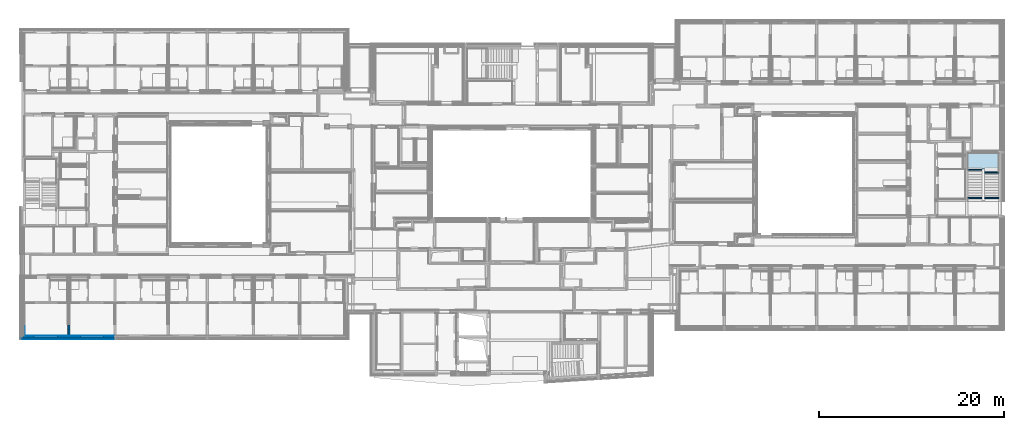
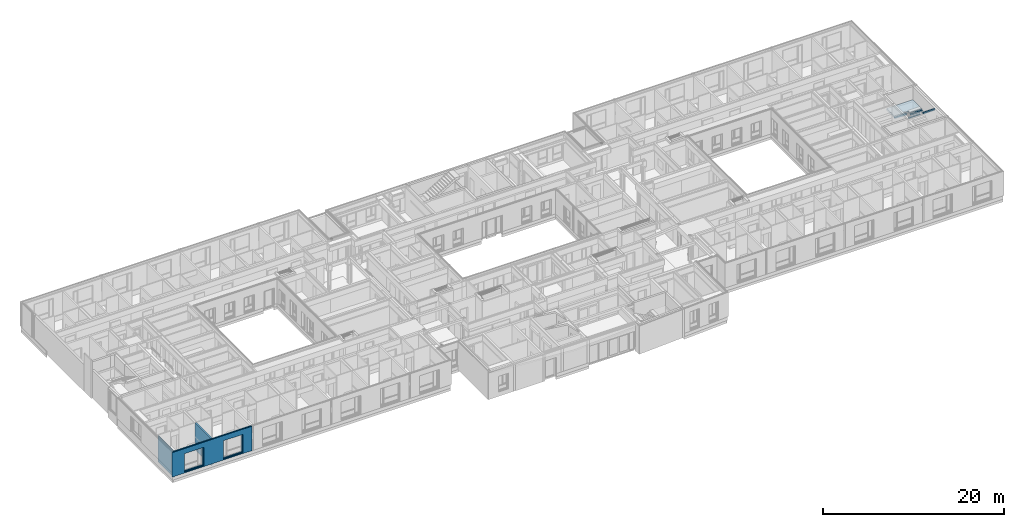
# One storey, part 8 of 207: 9 walls, 5 slabs, 14 openings.
"""IFC4 building model written with IfcOpenShell, lengths in metres."""

from ifc_helpers import new_model, entity, si_unit, converted_unit, derived_unit, frame, frame_2d, origin, origin_with_axes, place, context, subcontext, project, spatial, polyline, rectangle, outline, extrude, material, element, save


model = new_model("IFC4")

# Units and contexts
model_context = context("Model", 3, precision=1e-05, world=origin())
body_context = subcontext(model_context, "Body", "Model", "MODEL_VIEW")
ifc_project = project(units=[si_unit("LENGTHUNIT", "METRE"), si_unit("AREAUNIT", "SQUARE_METRE"), si_unit("VOLUMEUNIT", "CUBIC_METRE"), si_unit("MASSUNIT", "GRAM", prefix="KILO"), converted_unit("PLANEANGLEUNIT", "DEGREE", entity("IfcPlaneAngleMeasure", 0.0174532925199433), si_unit("PLANEANGLEUNIT", "RADIAN"), dimensions=[0, 0, 0, 0, 0, 0, 0]), derived_unit("THERMALTRANSMITTANCEUNIT", [(si_unit("POWERUNIT", "WATT"), 1), (si_unit("THERMODYNAMICTEMPERATUREUNIT", "KELVIN"), -1), (si_unit("LENGTHUNIT", "METRE"), -2)]), derived_unit("VOLUMETRICFLOWRATEUNIT", [(si_unit("LENGTHUNIT", "METRE"), 3), (converted_unit("TIMEUNIT", "hour", entity("IfcTimeMeasure", 3600.0), si_unit("TIMEUNIT", "SECOND"), dimensions=[0, 0, 1, 0, 0, 0, 0]), -1), (si_unit("LENGTHUNIT", "METRE"), -1)])], contexts=[model_context])

# Site, building, storey
site_placement = place(None, origin())
site = spatial("IfcSite", under=ifc_project, at=site_placement, Name="Psychiatrie Neubau Wunstorf", CompositionType="ELEMENT")
building_placement = place(site_placement, origin())
building = spatial("IfcBuilding", under=site, at=building_placement, Name="Neubau H2 Stationsgebäude", CompositionType="ELEMENT")
storey_placement = place(building_placement, frame((0.0, 0.0, -0.2)))
storey = spatial("IfcBuildingStorey", under=building, at=storey_placement, Name="H2 Ebene 0", CompositionType="ELEMENT", Elevation=-0.2)

# Slabs
ifc_material_1 = material(Name="STB")
slab_1_placement = place(storey_placement, frame((102.37, 12.6667214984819, 3.6)))
element("IfcSlab", 1, at=slab_1_placement, inside=storey, material=ifc_material_1, PredefinedType="FLOOR", context=body_context, shape_type="SweptSolid", body=[
    extrude(rectangle(XDim=0.15, YDim=1.5, at=frame_2d((0.75, -0.075), x_axis=(0.0, -1.0))), frame((0.0, 0.15, 0.0), z_axis=(0.0, 0.0, 1.0), x_axis=(1.0, 0.0, 0.0)), (0.0, 0.0, 1.0), 0.16),
])
ifc_material_2 = material(Name="Stb")
slab_2_placement = place(storey_placement, frame((102.369990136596, 15.7239938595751, 1.7655)))
element("IfcSlab", 2, at=slab_2_placement, inside=storey, material=ifc_material_2, PredefinedType="FLOOR", context=body_context, shape_type="SweptSolid", body=[
    extrude(outline(polyline([(0.0, 0.0), (1.50000986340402, 0.0), (1.50001972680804, 0.151000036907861), (9.86340401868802e-06, 0.151000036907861), (0.0, 0.0)])), origin_with_axes(), (0.0, 0.0, 1.0), 0.14),
])
ifc_material_3 = material(Name="STB")
slab_3_placement = place(storey_placement, frame((104.22, 12.666606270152, 3.6)))
element("IfcSlab", 3, at=slab_3_placement, inside=storey, material=ifc_material_3, PredefinedType="FLOOR", context=body_context, shape_type="SweptSolid", body=[
    extrude(outline(polyline([(0.0, 0.15), (0.0, 0.0), (1.49999999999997, 0.000115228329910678), (1.49999999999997, 0.150115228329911), (0.0, 0.15)])), origin_with_axes(), (0.0, 0.0, 1.0), 0.16),
])
ifc_material_4 = material(Name="Stb")
slab_4_placement = place(storey_placement, frame((104.219950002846, 15.4156547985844, 1.7655)))
element("IfcSlab", 4, at=slab_4_placement, inside=storey, material=ifc_material_4, PredefinedType="FLOOR", context=body_context, shape_type="SweptSolid", body=[
    extrude(outline(polyline([(4.99971541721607e-05, 0.0), (1.50004013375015, 0.0010000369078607), (1.50004999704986, 0.151075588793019), (0.0, 0.151059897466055), (4.99971541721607e-05, 0.0)])), origin_with_axes(), (0.0, 0.0, 1.0), 0.14),
])
ifc_material_5 = material(Name="Stb")
slab_5_placement = place(storey_placement, frame((102.37, 15.5667146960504, 1.7655)))
element("IfcSlab", 5, at=slab_5_placement, inside=storey, material=ifc_material_5, PredefinedType="FLOOR", context=body_context, shape_type="SweptSolid", body=[
    extrude(outline(polyline([(3.34999999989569, 1.56913269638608e-05), (3.35, 2.00828529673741), (0.167776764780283, 2.00828530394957), (0.0, 2.00828530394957), (0.0, 0.308279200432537), (1.50000986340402, 0.308279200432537), (1.85, 0.308285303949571), (1.84995000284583, 0.0), (3.34999999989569, 1.56913269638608e-05)])), origin_with_axes(), (0.0, 0.0, 1.0), 0.25),
])

# Wall, openings
ifc_material_6 = material(Name="WA-LB")
wall_1_placement = place(storey_placement, frame((9.9, -2.16399999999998, 0.5), z_axis=(0.0, 0.0, 1.0), x_axis=(-1.0, 1.40209871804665e-16, 0.0)))
wall_1 = element("IfcWall", 6, at=wall_1_placement, inside=storey, material=ifc_material_6, context=body_context, shape_type="SweptSolid", body=[
    extrude(outline(polyline([(-9.77137313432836, -0.0360000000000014), (-0.0413731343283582, -0.0360000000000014), (0.0, 0.0), (-9.77137313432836, 0.0), (-9.77137313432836, -0.0360000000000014)])), frame((9.77137313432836, 0.0360000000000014, 0.0), z_axis=(0.0, 0.0, 1.0), x_axis=(1.0, 0.0, 0.0)), (0.0, 0.0, 1.0), 3.1),
])
opening_1_placement = place(wall_1_placement, frame((6.15, 0.0, 0.1), z_axis=(0.0, 1.0, 0.0), x_axis=(0.0, 0.0, 1.0)))
element("IfcOpeningElement", 7, at=opening_1_placement, cuts=wall_1, Name="Fensteröffnung", ObjectType="Opening", context=body_context, shape_type="SweptSolid", body=[
    extrude(outline(polyline([(2.5, 2.5), (2.5, 0.0), (0.0, 0.0), (0.0, 2.5), (2.5, 2.5)])), origin_with_axes(), (0.0, 0.0, 1.0), 0.036),
])
opening_2_placement = place(wall_1_placement, frame((1.15, 0.0, 0.1), z_axis=(0.0, 1.0, 0.0), x_axis=(0.0, 0.0, 1.0)))
element("IfcOpeningElement", 8, at=opening_2_placement, cuts=wall_1, Name="Fensteröffnung", ObjectType="Opening", context=body_context, shape_type="SweptSolid", body=[
    extrude(outline(polyline([(2.5, 2.5), (2.5, 0.0), (0.0, 0.0), (0.0, 2.5), (2.5, 2.5)])), origin_with_axes(), (0.0, 0.0, 1.0), 0.036),
])

ifc_material_7 = material(Name="WA-HD")
wall_2_placement = place(storey_placement, frame((9.9, -2.19999999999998, 0.5), z_axis=(0.0, 0.0, 1.0), x_axis=(-1.0, 1.3961620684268e-16, 0.0)))
wall_2 = element("IfcWall", 9, at=wall_2_placement, inside=storey, material=ifc_material_7, context=body_context, shape_type="SweptSolid", body=[
    extrude(outline(polyline([(-9.95525373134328, -0.160000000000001), (-0.183880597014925, -0.160000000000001), (0.0, 0.0), (-9.95525373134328, 0.0), (-9.95525373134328, -0.160000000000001)])), frame((9.95525373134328, 0.160000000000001, 0.0), z_axis=(0.0, 0.0, 1.0), x_axis=(1.0, 0.0, 0.0)), (0.0, 0.0, 1.0), 3.1),
])
opening_3_placement = place(wall_2_placement, frame((6.15, 0.0, 0.1), z_axis=(0.0, 1.0, 0.0), x_axis=(0.0, 0.0, 1.0)))
element("IfcOpeningElement", 10, at=opening_3_placement, cuts=wall_2, Name="Fensteröffnung", ObjectType="Opening", context=body_context, shape_type="SweptSolid", body=[
    extrude(outline(polyline([(2.5, 2.5), (2.5, 0.0), (0.0, 0.0), (0.0, 2.5), (2.5, 2.5)])), origin_with_axes(), (0.0, 0.0, 1.0), 0.16),
])
opening_4_placement = place(wall_2_placement, frame((1.15, 0.0, 0.1), z_axis=(0.0, 1.0, 0.0), x_axis=(0.0, 0.0, 1.0)))
element("IfcOpeningElement", 11, at=opening_4_placement, cuts=wall_2, Name="Fensteröffnung", ObjectType="Opening", context=body_context, shape_type="SweptSolid", body=[
    extrude(outline(polyline([(2.5, 2.5), (2.5, 0.0), (0.0, 0.0), (0.0, 2.5), (2.5, 2.5)])), origin_with_axes(), (0.0, 0.0, 1.0), 0.16),
])

ifc_material_8 = material(Name="WA-DL")
wall_3_placement = place(storey_placement, frame((9.9, -2.35999999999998, 0.5), z_axis=(0.0, 0.0, 1.0), x_axis=(-1.0, 1.37037396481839e-16, 0.0)))
wall_3 = element("IfcWall", 12, at=wall_3_placement, inside=storey, material=ifc_material_8, context=body_context, shape_type="SweptSolid", body=[
    extrude(outline(polyline([(-10.0471940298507, -0.0800000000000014), (-0.0919402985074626, -0.0800000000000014), (0.0, 0.0), (-10.0471940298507, 0.0), (-10.0471940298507, -0.0800000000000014)])), frame((10.0471940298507, 0.0800000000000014, 0.0), z_axis=(0.0, 0.0, 1.0), x_axis=(1.0, 0.0, 0.0)), (0.0, 0.0, 1.0), 3.3),
])
opening_5_placement = place(wall_3_placement, frame((6.15, 0.0, 0.1), z_axis=(0.0, 1.0, 0.0), x_axis=(0.0, 0.0, 1.0)))
element("IfcOpeningElement", 13, at=opening_5_placement, cuts=wall_3, Name="Fensteröffnung", ObjectType="Opening", context=body_context, shape_type="SweptSolid", body=[
    extrude(outline(polyline([(2.5, 2.5), (2.5, 0.0), (0.0, 0.0), (0.0, 2.5), (2.5, 2.5)])), origin_with_axes(), (0.0, 0.0, 1.0), 0.08),
])
opening_6_placement = place(wall_3_placement, frame((1.15, 0.0, 0.1), z_axis=(0.0, 1.0, 0.0), x_axis=(0.0, 0.0, 1.0)))
element("IfcOpeningElement", 14, at=opening_6_placement, cuts=wall_3, Name="Fensteröffnung", ObjectType="Opening", context=body_context, shape_type="SweptSolid", body=[
    extrude(outline(polyline([(2.5, 2.5), (2.5, 0.0), (0.0, 0.0), (0.0, 2.5), (2.5, 2.5)])), origin_with_axes(), (0.0, 0.0, 1.0), 0.08),
])

ifc_material_9 = material(Name="WA-TP")
wall_4_placement = place(storey_placement, frame((9.9, -2.43999999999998, 0.5), z_axis=(0.0, 0.0, 1.0), x_axis=(-1.0, 1.35783388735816e-16, 0.0)))
wall_4 = element("IfcWall", 15, at=wall_4_placement, inside=storey, material=ifc_material_9, context=body_context, shape_type="SweptSolid", body=[
    extrude(outline(polyline([(-10.0885671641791, -0.0360000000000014), (-0.0413731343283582, -0.0360000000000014), (0.0, 0.0), (-10.0885671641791, 0.0), (-10.0885671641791, -0.0360000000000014)])), frame((10.0885671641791, 0.0360000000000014, 0.0), z_axis=(0.0, 0.0, 1.0), x_axis=(1.0, 0.0, 0.0)), (0.0, 0.0, 1.0), 3.3),
])
opening_7_placement = place(wall_4_placement, frame((6.15, 0.0, 0.1), z_axis=(0.0, 1.0, 0.0), x_axis=(0.0, 0.0, 1.0)))
element("IfcOpeningElement", 16, at=opening_7_placement, cuts=wall_4, Name="Fensteröffnung", ObjectType="Opening", context=body_context, shape_type="SweptSolid", body=[
    extrude(outline(polyline([(2.5, 2.5), (2.5, 0.0), (0.0, 0.0), (0.0, 2.5), (2.5, 2.5)])), origin_with_axes(), (0.0, 0.0, 1.0), 0.036),
])
opening_8_placement = place(wall_4_placement, frame((1.15, 0.0, 0.1), z_axis=(0.0, 1.0, 0.0), x_axis=(0.0, 0.0, 1.0)))
element("IfcOpeningElement", 17, at=opening_8_placement, cuts=wall_4, Name="Fensteröffnung", ObjectType="Opening", context=body_context, shape_type="SweptSolid", body=[
    extrude(outline(polyline([(2.5, 2.5), (2.5, 0.0), (0.0, 0.0), (0.0, 2.5), (2.5, 2.5)])), origin_with_axes(), (0.0, 0.0, 1.0), 0.036),
])

ifc_material_10 = material(Name="WA-KL")
wall_5_placement = place(storey_placement, frame((9.9, -2.47599999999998, 0.5), z_axis=(0.0, 0.0, 1.0), x_axis=(-1.0, 1.35226542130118e-16, 0.0)))
wall_5 = element("IfcWall", 18, at=wall_5_placement, inside=storey, material=ifc_material_10, context=body_context, shape_type="SweptSolid", body=[
    extrude(outline(polyline([(-10.1161492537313, -0.0240000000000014), (-0.0275820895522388, -0.0240000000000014), (0.0, 0.0), (-10.1161492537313, 0.0), (-10.1161492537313, -0.0240000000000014)])), frame((10.1161492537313, 0.0240000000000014, 0.0), z_axis=(0.0, 0.0, 1.0), x_axis=(1.0, 0.0, 0.0)), (0.0, 0.0, 1.0), 3.3),
])
opening_9_placement = place(wall_5_placement, frame((6.15, 0.0, 0.1), z_axis=(0.0, 1.0, 0.0), x_axis=(0.0, 0.0, 1.0)))
element("IfcOpeningElement", 19, at=opening_9_placement, cuts=wall_5, Name="Fensteröffnung", ObjectType="Opening", context=body_context, shape_type="SweptSolid", body=[
    extrude(outline(polyline([(2.5, 2.5), (2.5, 0.0), (0.0, 0.0), (0.0, 2.5), (2.5, 2.5)])), origin_with_axes(), (0.0, 0.0, 1.0), 0.024),
])
opening_10_placement = place(wall_5_placement, frame((1.15, 0.0, 0.1), z_axis=(0.0, 1.0, 0.0), x_axis=(0.0, 0.0, 1.0)))
element("IfcOpeningElement", 20, at=opening_10_placement, cuts=wall_5, Name="Fensteröffnung", ObjectType="Opening", context=body_context, shape_type="SweptSolid", body=[
    extrude(outline(polyline([(2.5, 2.5), (2.5, 0.0), (0.0, 0.0), (0.0, 2.5), (2.5, 2.5)])), origin_with_axes(), (0.0, 0.0, 1.0), 0.024),
])

ifc_material_11 = material(Name="WA-TL")
wall_6_placement = place(storey_placement, frame((9.9, -2.49999999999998, 0.5), z_axis=(0.0, 0.0, 1.0), x_axis=(-1.0, 1.34857841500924e-16, 0.0)))
wall_6 = element("IfcWall", 21, at=wall_6_placement, inside=storey, material=ifc_material_11, context=body_context, shape_type="SweptSolid", body=[
    extrude(outline(polyline([(-10.1437313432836, -0.0240000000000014), (-0.0275820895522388, -0.0240000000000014), (0.0, 0.0), (-10.1437313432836, 0.0), (-10.1437313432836, -0.0240000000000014)])), frame((10.1437313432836, 0.0240000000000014, 0.0), z_axis=(0.0, 0.0, 1.0), x_axis=(1.0, 0.0, 0.0)), (0.0, 0.0, 1.0), 3.3),
])
opening_11_placement = place(wall_6_placement, frame((6.15, 0.0, 0.1), z_axis=(0.0, 1.0, 0.0), x_axis=(0.0, 0.0, 1.0)))
element("IfcOpeningElement", 22, at=opening_11_placement, cuts=wall_6, Name="Fensteröffnung", ObjectType="Opening", context=body_context, shape_type="SweptSolid", body=[
    extrude(outline(polyline([(2.5, 2.5), (2.5, 0.0), (0.0, 0.0), (0.0, 2.5), (2.5, 2.5)])), origin_with_axes(), (0.0, 0.0, 1.0), 0.024),
])
opening_12_placement = place(wall_6_placement, frame((1.15, 0.0, 0.1), z_axis=(0.0, 1.0, 0.0), x_axis=(0.0, 0.0, 1.0)))
element("IfcOpeningElement", 23, at=opening_12_placement, cuts=wall_6, Name="Fensteröffnung", ObjectType="Opening", context=body_context, shape_type="SweptSolid", body=[
    extrude(outline(polyline([(2.5, 2.5), (2.5, 0.0), (0.0, 0.0), (0.0, 2.5), (2.5, 2.5)])), origin_with_axes(), (0.0, 0.0, 1.0), 0.024),
])

ifc_material_12 = material(Name="WA-HS")
wall_7_placement = place(storey_placement, frame((9.9, -2.52399999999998, 0.5), z_axis=(0.0, 0.0, 1.0), x_axis=(-1.0, 1.34491145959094e-16, 0.0)))
wall_7 = element("IfcWall", 24, at=wall_7_placement, inside=storey, material=ifc_material_12, context=body_context, shape_type="SweptSolid", body=[
    extrude(outline(polyline([(-10.192, -0.0420000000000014), (-0.0482686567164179, -0.0420000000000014), (0.0, 0.0), (-10.192, 0.0), (-10.192, -0.0420000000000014)])), frame((10.192, 0.0420000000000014, 0.0), z_axis=(0.0, 0.0, 1.0), x_axis=(1.0, 0.0, 0.0)), (0.0, 0.0, 1.0), 3.3),
])
opening_13_placement = place(wall_7_placement, frame((6.15, 0.0, 0.1), z_axis=(0.0, 1.0, 0.0), x_axis=(0.0, 0.0, 1.0)))
element("IfcOpeningElement", 25, at=opening_13_placement, cuts=wall_7, Name="Fensteröffnung", ObjectType="Opening", context=body_context, shape_type="SweptSolid", body=[
    extrude(outline(polyline([(2.5, 2.5), (2.5, 0.0), (0.0, 0.0), (0.0, 2.5), (2.5, 2.5)])), origin_with_axes(), (0.0, 0.0, 1.0), 0.042),
])
opening_14_placement = place(wall_7_placement, frame((1.15, 0.0, 0.1), z_axis=(0.0, 1.0, 0.0), x_axis=(0.0, 0.0, 1.0)))
element("IfcOpeningElement", 26, at=opening_14_placement, cuts=wall_7, Name="Fensteröffnung", ObjectType="Opening", context=body_context, shape_type="SweptSolid", body=[
    extrude(outline(polyline([(2.5, 2.5), (2.5, 0.0), (0.0, 0.0), (0.0, 2.5), (2.5, 2.5)])), origin_with_axes(), (0.0, 0.0, 1.0), 0.042),
])

# Walls
ifc_material_13 = material(Name="WI-LB")
wall_8_placement = place(storey_placement, frame((4.9, 1.35874963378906, 0.0), z_axis=(0.0, 0.0, 1.0), x_axis=(0.0, -1.0, 0.0)))
element("IfcWall", 27, at=wall_8_placement, inside=storey, material=ifc_material_13, context=body_context, shape_type="SweptSolid", body=[
    extrude(rectangle(XDim=3.52274963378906, YDim=0.2, at=frame_2d((1.76137481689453, 0.1), x_axis=(1.0, 0.0))), origin_with_axes(), (0.0, 0.0, 1.0), 3.6),
])
ifc_material_14 = material(Name="WI-LB")
wall_9_placement = place(storey_placement, frame((0.169, 1.35874963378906, 0.0), z_axis=(0.0, 0.0, 1.0), x_axis=(0.0, -1.0, 0.0)))
element("IfcWall", 28, at=wall_9_placement, inside=storey, material=ifc_material_14, context=body_context, shape_type="SweptSolid", body=[
    extrude(rectangle(XDim=3.52274963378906, YDim=0.075, at=frame_2d((1.76137481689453, 0.0375), x_axis=(1.0, 0.0))), origin_with_axes(), (0.0, 0.0, 1.0), 3.55),
])

save(model, "model.ifc")
